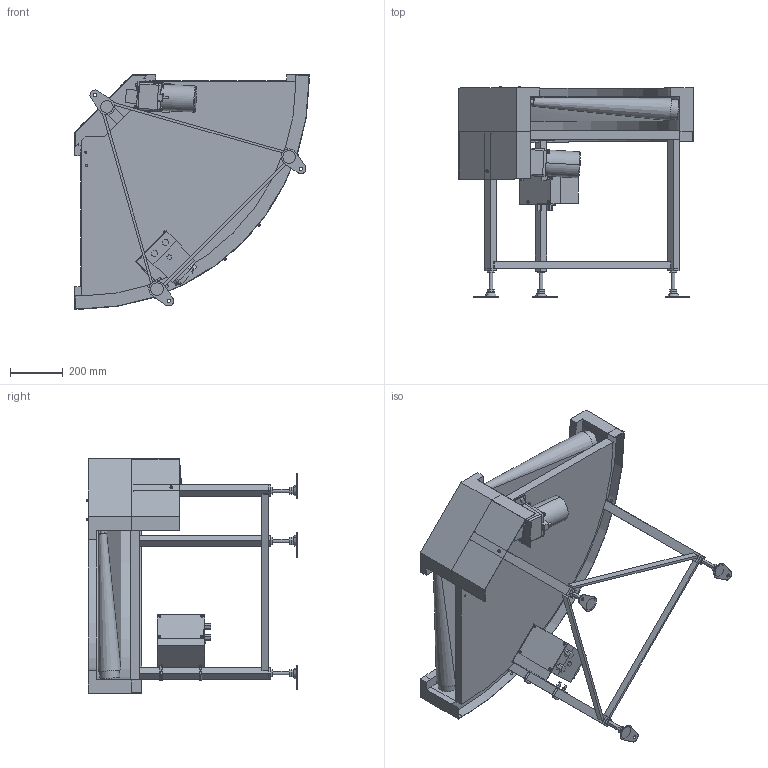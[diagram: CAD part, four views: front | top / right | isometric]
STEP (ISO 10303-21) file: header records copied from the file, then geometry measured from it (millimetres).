
FILE_DESCRIPTION (( 'STEP AP214' ), '1' );
FILE_NAME ('FBC-309-500-90°-R-IV-60.STEP', '2023-03-07T06:25:52', ( '' ), ( '' ), 'SwSTEP 2.0', 'SolidWorks 2017', '' );
FILE_SCHEMA (( 'AUTOMOTIVE_DESIGN' ));
Length unit declared in the file: millimetre
Products named in the file (1): FBC-309-500-90°-R-IV-60
Bounding box: 888 x 797.9 x 888 mm (x, y, z)
Volume: 71800066.9 mm3; surface area: 5004966.7 mm2
Topology: 40 solids, 41 shells, 1190 faces, 2810 edges, 1798 vertices
Faces by surface type: plane 677, cylinder 370, cone 69, torus 38, bspline 36
Entity records: 38491 total; most frequent: CARTESIAN_POINT 10294, DIRECTION 5810, ORIENTED_EDGE 5588, EDGE_CURVE 2794, AXIS2_PLACEMENT_3D 2045, VERTEX_POINT 1798, LINE 1720, VECTOR 1720
